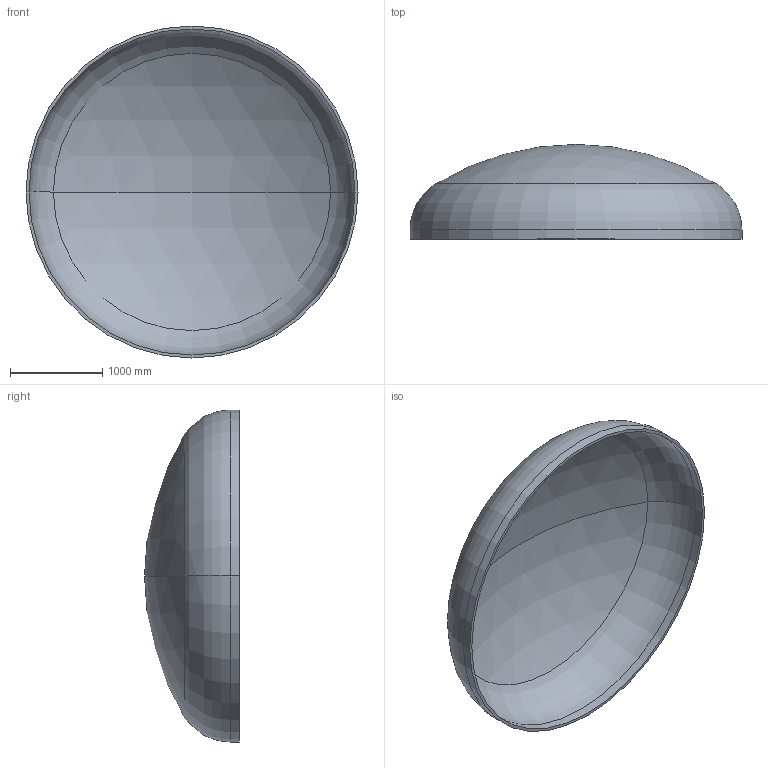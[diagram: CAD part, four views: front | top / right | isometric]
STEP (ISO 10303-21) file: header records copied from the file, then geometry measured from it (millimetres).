
FILE_DESCRIPTION (( 'STEP AP203' ), '1' );
FILE_NAME ('DIN 28013 Korbbogenform_-_Boden DIN 28013 - 3600 x 100 - I - s=32.step', '2016-07-01T20:19:15', ( '' ), ( '' ), 'SwSTEP 2.0', 'SolidWorks 2013', '' );
FILE_SCHEMA (( 'CONFIG_CONTROL_DESIGN' ));
Length unit declared in the file: millimetre
Products named in the file (1): DIN 28013 Korbbogenform_-_Boden DIN 28013 - 3600 x 100 - I - s=32
Bounding box: 3600 x 1028.5 x 3600 mm (x, y, z)
Volume: 481811150 mm3; surface area: 30474024.8 mm2
Topology: 1 solids, 1 shells, 13 faces, 24 edges, 14 vertices
Faces by surface type: torus 4, cylinder 4, sphere 4, plane 1
Entity records: 407 total; most frequent: DIRECTION 72, CARTESIAN_POINT 52, ORIENTED_EDGE 48, AXIS2_PLACEMENT_3D 34, EDGE_CURVE 24, CIRCLE 20, VERTEX_POINT 14, EDGE_LOOP 14
